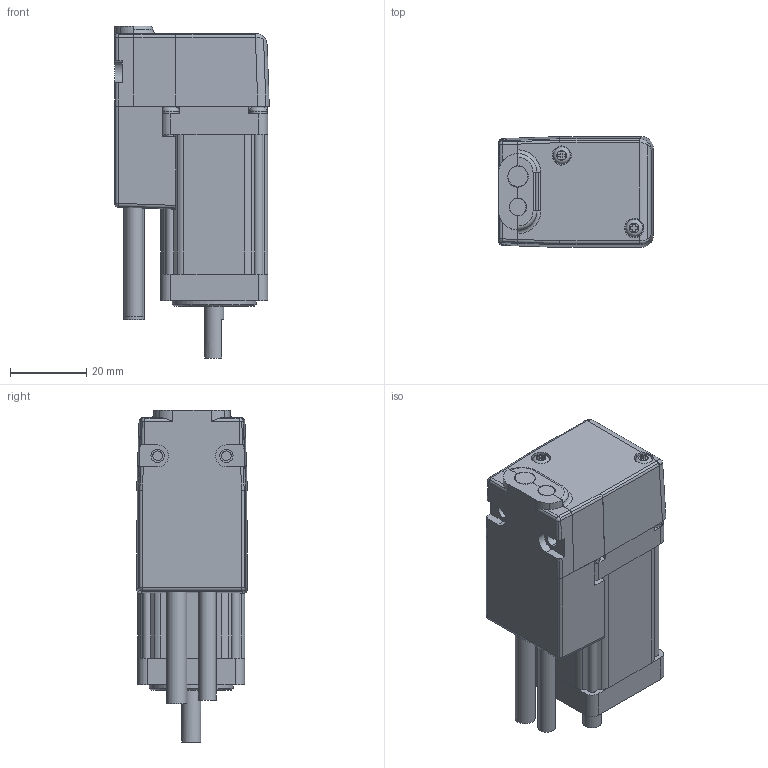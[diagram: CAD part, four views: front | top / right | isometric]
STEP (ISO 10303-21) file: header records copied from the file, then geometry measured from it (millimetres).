
FILE_DESCRIPTION(('FreeCAD Model'),'2;1');
FILE_NAME('Open CASCADE Shape Model','2023-07-27T10:04:00',('Author'),( ''),'Open CASCADE STEP processor 7.5','FreeCAD','Unknown');
FILE_SCHEMA(('AUTOMOTIVE_DESIGN { 1 0 10303 214 1 1 1 1 }'));
Length unit declared in the file: millimetre
Products named in the file (14): RMJ0232; Body; Body001; Body002; Body003; Body004; Body005; Body006; 1; 2; Body007; Body008; Body009; Body010
Assembly tree (13 placements, depth 2):
  RMJ0232
    Body
    Body001
    Body002
    Body003
    Body004
    Body005
    Body006
    1
    2
    Body007
    Body008
    Body009
    Body010
Bounding box: 40.5 x 29 x 87 mm (x, y, z)
Volume: 32922.8 mm3; surface area: 25748.9 mm2
Topology: 13 solids, 14 shells, 528 faces, 1382 edges, 883 vertices
Faces by surface type: cylinder 238, plane 235, bspline 23, sphere 18, torus 12, cone 2
Full cylindrical faces by diameter (mm): 2.5 x12, 4.5 x6, 4.6 x2, 5 x2, 5.29 x1, 5.3 x1, 18 x1, 20 x1, 22 x2
Entity records: 42414 total; most frequent: CARTESIAN_POINT 14853, DIRECTION 5163, LINE 2844, VECTOR 2844, ORIENTED_EDGE 2730, PCURVE 2730, DEFINITIONAL_REPRESENTATION 2730, EDGE_CURVE 1365
